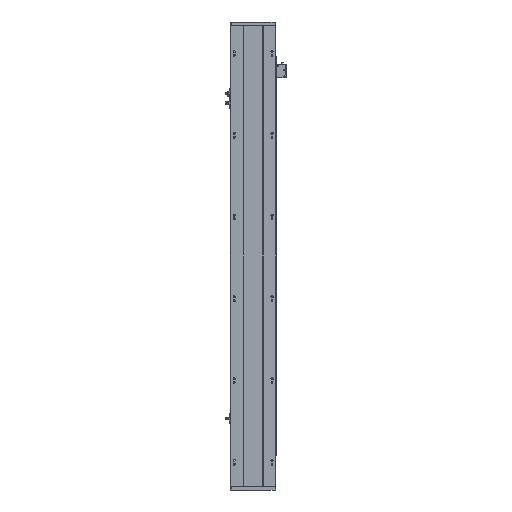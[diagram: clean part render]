
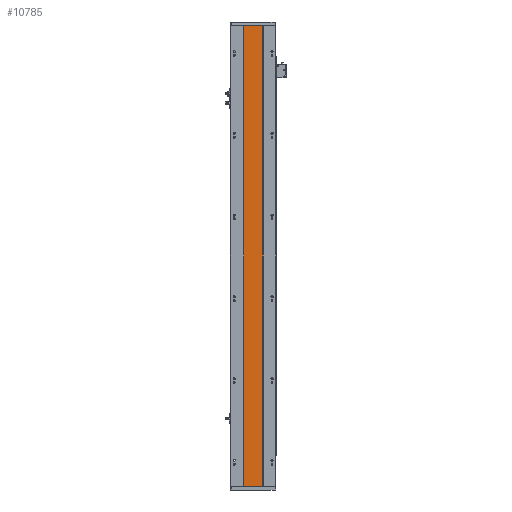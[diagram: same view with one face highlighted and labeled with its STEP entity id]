
A CAD part, front view. The second image highlights one B-rep face of the part: STEP entity #10785.
In plain terms, the highlighted planar face has unit normal (0, -1, 0).
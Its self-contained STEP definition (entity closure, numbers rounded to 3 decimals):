
#421 = LINE ( 'NONE', #3375, #25312 ) ;
#1201 = ORIENTED_EDGE ( 'NONE', *, *, #13990, .F. ) ;
#1721 = CARTESIAN_POINT ( 'NONE',  ( 133.07, 115.96, 1216. ) ) ;
#2933 = VERTEX_POINT ( 'NONE', #22605 ) ;
#2998 = DIRECTION ( 'NONE',  ( 1., 0., 0. ) ) ;
#3375 = CARTESIAN_POINT ( 'NONE',  ( 183.063, 115.96, 1216. ) ) ;
#3709 = ORIENTED_EDGE ( 'NONE', *, *, #5717, .T. ) ;
#3956 = FACE_OUTER_BOUND ( 'NONE', #13180, .T. ) ;
#4242 = VECTOR ( 'NONE', #2998, 1000. ) ;
#4957 = ORIENTED_EDGE ( 'NONE', *, *, #9617, .F. ) ;
#5717 = EDGE_CURVE ( 'NONE', #17597, #10736, #8443, .T. ) ;
#5806 = DIRECTION ( 'NONE',  ( 0., 0., -1. ) ) ;
#5843 = DIRECTION ( 'NONE',  ( 0., 1., 0. ) ) ;
#7682 = CARTESIAN_POINT ( 'NONE',  ( 0., 115.96, 1216. ) ) ;
#7834 = DIRECTION ( 'NONE',  ( -1., 0., 0. ) ) ;
#8443 = LINE ( 'NONE', #11424, #4242 ) ;
#9617 = EDGE_CURVE ( 'NONE', #15365, #10736, #421, .T. ) ;
#9637 = AXIS2_PLACEMENT_3D ( 'NONE', #18111, #5843, #7834 ) ;
#10736 = VERTEX_POINT ( 'NONE', #15863 ) ;
#10771 = CARTESIAN_POINT ( 'NONE',  ( 183.063, 115.96, 1216. ) ) ;
#10785 = ADVANCED_FACE ( 'NONE', ( #3956 ), #18023, .F. ) ;
#11424 = CARTESIAN_POINT ( 'NONE',  ( 0., 115.96, 0. ) ) ;
#12262 = VECTOR ( 'NONE', #19880, 1000. ) ;
#12327 = EDGE_CURVE ( 'NONE', #2933, #17597, #17447, .T. ) ;
#13180 = EDGE_LOOP ( 'NONE', ( #3709, #4957, #1201, #22201 ) ) ;
#13580 = DIRECTION ( 'NONE',  ( 0., 0., -1. ) ) ;
#13990 = EDGE_CURVE ( 'NONE', #2933, #15365, #21258, .T. ) ;
#15365 = VERTEX_POINT ( 'NONE', #10771 ) ;
#15863 = CARTESIAN_POINT ( 'NONE',  ( 183.063, 115.96, 0. ) ) ;
#16798 = VECTOR ( 'NONE', #5806, 1000. ) ;
#17447 = LINE ( 'NONE', #1721, #16798 ) ;
#17597 = VERTEX_POINT ( 'NONE', #18700 ) ;
#18023 = PLANE ( 'NONE',  #9637 ) ;
#18111 = CARTESIAN_POINT ( 'NONE',  ( 0., 115.96, 1216. ) ) ;
#18700 = CARTESIAN_POINT ( 'NONE',  ( 133.07, 115.96, 0. ) ) ;
#19880 = DIRECTION ( 'NONE',  ( 1., 0., 0. ) ) ;
#21258 = LINE ( 'NONE', #7682, #12262 ) ;
#22201 = ORIENTED_EDGE ( 'NONE', *, *, #12327, .T. ) ;
#22605 = CARTESIAN_POINT ( 'NONE',  ( 133.07, 115.96, 1216. ) ) ;
#25312 = VECTOR ( 'NONE', #13580, 1000. ) ;
